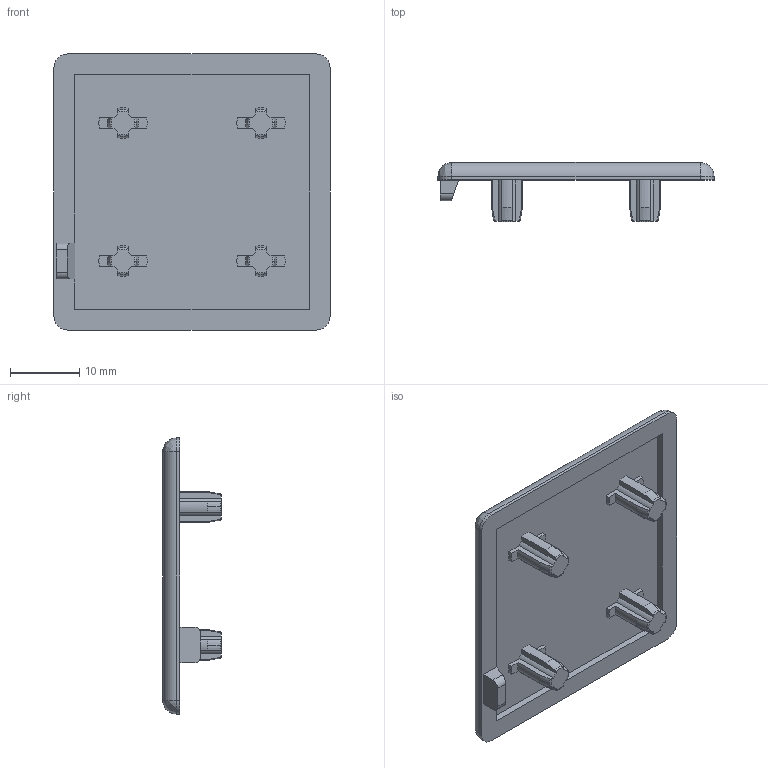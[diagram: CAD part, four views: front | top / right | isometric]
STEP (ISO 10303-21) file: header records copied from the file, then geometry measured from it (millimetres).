
FILE_DESCRIPTION (( 'STEP AP203' ), '1' );
FILE_NAME ('10018_ABD5.4040.STEP', '2018-05-18T07:17:35', ( '' ), ( '' ), 'SwSTEP 2.0', 'SolidWorks 2017', '' );
FILE_SCHEMA (( 'CONFIG_CONTROL_DESIGN' ));
Length unit declared in the file: millimetre
Products named in the file (1): 10018_ABD5.4040
Bounding box: 40 x 8.5 x 40 mm (x, y, z)
Volume: 3064.4 mm3; surface area: 4056 mm2
Topology: 1 solids, 1 shells, 162 faces, 459 edges, 300 vertices
Faces by surface type: plane 60, cylinder 58, bspline 24, cone 20
Entity records: 5738 total; most frequent: CARTESIAN_POINT 1628, ORIENTED_EDGE 910, DIRECTION 789, EDGE_CURVE 455, VERTEX_POINT 300, AXIS2_PLACEMENT_3D 285, VECTOR 219, LINE 219
